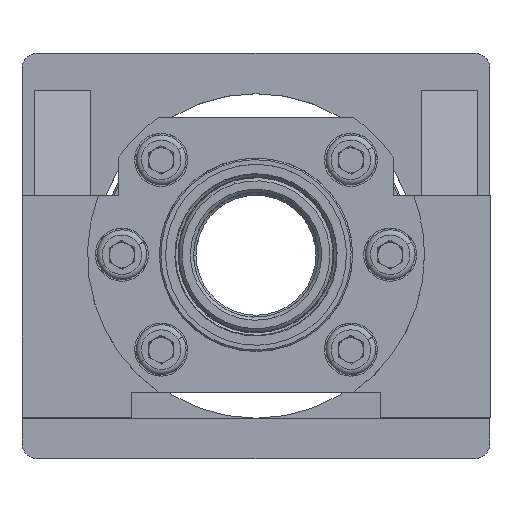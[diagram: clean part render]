
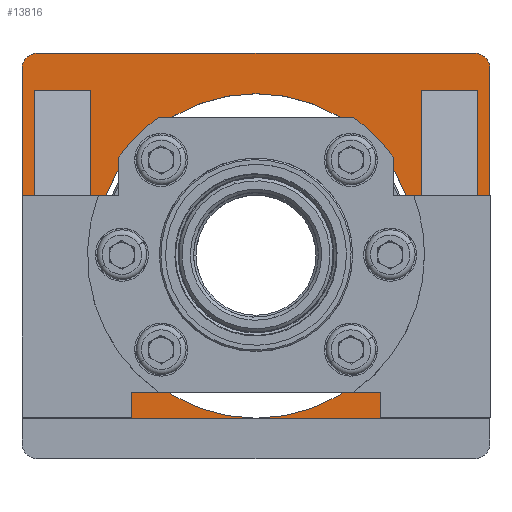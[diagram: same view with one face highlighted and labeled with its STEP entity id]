
A CAD part, top view. The second image highlights one B-rep face of the part: STEP entity #13816.
In plain terms, the highlighted planar face has unit normal (0, 0, 1).
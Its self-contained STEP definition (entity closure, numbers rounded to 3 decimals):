
#267 = CARTESIAN_POINT ( 'NONE',  ( -75., -52.01, 22. ) ) ;
#478 = CARTESIAN_POINT ( 'NONE',  ( -75., 53., 22. ) ) ;
#726 = DIRECTION ( 'NONE',  ( -1., 0., 0. ) ) ;
#994 = CARTESIAN_POINT ( 'NONE',  ( 52., 0., 22. ) ) ;
#1078 = DIRECTION ( 'NONE',  ( 1., 0., 0. ) ) ;
#1080 = CARTESIAN_POINT ( 'NONE',  ( -75., 65., 22. ) ) ;
#1215 = CARTESIAN_POINT ( 'NONE',  ( 0., 0., 22. ) ) ;
#1310 = ORIENTED_EDGE ( 'NONE', *, *, #20342, .F. ) ;
#1708 = ORIENTED_EDGE ( 'NONE', *, *, #17808, .T. ) ;
#1732 = ORIENTED_EDGE ( 'NONE', *, *, #24575, .F. ) ;
#1868 = DIRECTION ( 'NONE',  ( 0., 0., 1. ) ) ;
#1909 = VERTEX_POINT ( 'NONE', #13468 ) ;
#2022 = LINE ( 'NONE', #4789, #17711 ) ;
#2076 = DIRECTION ( 'NONE',  ( -1., 0., 0. ) ) ;
#2147 = AXIS2_PLACEMENT_3D ( 'NONE', #14731, #1868, #16844 ) ;
#2219 = VERTEX_POINT ( 'NONE', #18189 ) ;
#3132 = CARTESIAN_POINT ( 'NONE',  ( -75., -65., 22. ) ) ;
#3150 = EDGE_CURVE ( 'NONE', #8792, #8718, #21101, .T. ) ;
#3374 = DIRECTION ( 'NONE',  ( 1., 0., 0. ) ) ;
#3519 = VERTEX_POINT ( 'NONE', #11243 ) ;
#4026 = VECTOR ( 'NONE', #13259, 1000. ) ;
#4235 = ORIENTED_EDGE ( 'NONE', *, *, #3150, .F. ) ;
#4271 = VECTOR ( 'NONE', #726, 1000. ) ;
#4404 = EDGE_CURVE ( 'NONE', #9642, #2219, #19065, .T. ) ;
#4583 = CARTESIAN_POINT ( 'NONE',  ( -71., 53., 22. ) ) ;
#4630 = ORIENTED_EDGE ( 'NONE', *, *, #20598, .T. ) ;
#4789 = CARTESIAN_POINT ( 'NONE',  ( -53., 17., 22. ) ) ;
#4980 = EDGE_LOOP ( 'NONE', ( #19703, #4630, #14806, #16082, #1708, #14477 ) ) ;
#5404 = LINE ( 'NONE', #27640, #21806 ) ;
#5514 = DIRECTION ( 'NONE',  ( 1., 0., 0. ) ) ;
#5794 = DIRECTION ( 'NONE',  ( 1., 0., 0. ) ) ;
#6040 = VERTEX_POINT ( 'NONE', #17682 ) ;
#6202 = DIRECTION ( 'NONE',  ( 0., 0., 1. ) ) ;
#6724 = EDGE_CURVE ( 'NONE', #8792, #26660, #19643, .T. ) ;
#6739 = AXIS2_PLACEMENT_3D ( 'NONE', #19053, #6202, #21180 ) ;
#7566 = LINE ( 'NONE', #15200, #24601 ) ;
#7624 = EDGE_CURVE ( 'NONE', #10571, #15006, #18649, .T. ) ;
#7656 = VECTOR ( 'NONE', #27546, 1000. ) ;
#8170 = VECTOR ( 'NONE', #27357, 1000. ) ;
#8258 = EDGE_CURVE ( 'NONE', #6040, #8718, #7566, .T. ) ;
#8577 = VERTEX_POINT ( 'NONE', #21198 ) ;
#8673 = CARTESIAN_POINT ( 'NONE',  ( 71., 53., 22. ) ) ;
#8718 = VERTEX_POINT ( 'NONE', #12834 ) ;
#8792 = VERTEX_POINT ( 'NONE', #8673 ) ;
#9125 = DIRECTION ( 'NONE',  ( 0., 1., 0. ) ) ;
#9629 = DIRECTION ( 'NONE',  ( 0., 0., 1. ) ) ;
#9642 = VERTEX_POINT ( 'NONE', #15335 ) ;
#9709 = DIRECTION ( 'NONE',  ( 0., 1., 0. ) ) ;
#9841 = FACE_BOUND ( 'NONE', #18257, .T. ) ;
#10014 = EDGE_CURVE ( 'NONE', #15006, #10773, #14285, .T. ) ;
#10106 = EDGE_CURVE ( 'NONE', #1909, #15597, #13584, .T. ) ;
#10139 = CARTESIAN_POINT ( 'NONE',  ( -76.047, -52.01, 22. ) ) ;
#10562 = DIRECTION ( 'NONE',  ( 0., -1., 0. ) ) ;
#10571 = VERTEX_POINT ( 'NONE', #18931 ) ;
#10720 = ORIENTED_EDGE ( 'NONE', *, *, #11089, .F. ) ;
#10773 = VERTEX_POINT ( 'NONE', #267 ) ;
#11089 = EDGE_CURVE ( 'NONE', #8577, #18405, #13935, .T. ) ;
#11243 = CARTESIAN_POINT ( 'NONE',  ( -53., 53., 22. ) ) ;
#11245 = CARTESIAN_POINT ( 'NONE',  ( -75., 53., 22. ) ) ;
#11785 = PLANE ( 'NONE',  #19003 ) ;
#11933 = CARTESIAN_POINT ( 'NONE',  ( 53., -52., 22. ) ) ;
#12491 = EDGE_LOOP ( 'NONE', ( #10720, #1310 ) ) ;
#12755 = CARTESIAN_POINT ( 'NONE',  ( 70., 65., 22. ) ) ;
#12834 = CARTESIAN_POINT ( 'NONE',  ( 53., 53., 22. ) ) ;
#12993 = ORIENTED_EDGE ( 'NONE', *, *, #8258, .T. ) ;
#13259 = DIRECTION ( 'NONE',  ( -1., 0., 0. ) ) ;
#13468 = CARTESIAN_POINT ( 'NONE',  ( 75., -52.01, 22. ) ) ;
#13584 = LINE ( 'NONE', #26755, #24215 ) ;
#13816 = ADVANCED_FACE ( 'NONE', ( #20527, #26840, #9841, #26151 ), #11785, .T. ) ;
#13933 = DIRECTION ( 'NONE',  ( 0., 0., 1. ) ) ;
#13935 = CIRCLE ( 'NONE', #6739, 52. ) ;
#14006 = VECTOR ( 'NONE', #10562, 1000. ) ;
#14285 = LINE ( 'NONE', #1080, #19904 ) ;
#14477 = ORIENTED_EDGE ( 'NONE', *, *, #7624, .T. ) ;
#14573 = LINE ( 'NONE', #16659, #8170 ) ;
#14662 = EDGE_CURVE ( 'NONE', #15597, #14761, #19228, .T. ) ;
#14716 = VECTOR ( 'NONE', #5514, 1000. ) ;
#14731 = CARTESIAN_POINT ( 'NONE',  ( 70., 60., 22. ) ) ;
#14761 = VERTEX_POINT ( 'NONE', #12755 ) ;
#14806 = ORIENTED_EDGE ( 'NONE', *, *, #10106, .T. ) ;
#15006 = VERTEX_POINT ( 'NONE', #21554 ) ;
#15092 = LINE ( 'NONE', #10139, #26346 ) ;
#15200 = CARTESIAN_POINT ( 'NONE',  ( 53., 17., 22. ) ) ;
#15335 = CARTESIAN_POINT ( 'NONE',  ( -71., -52., 22. ) ) ;
#15597 = VERTEX_POINT ( 'NONE', #18472 ) ;
#16082 = ORIENTED_EDGE ( 'NONE', *, *, #14662, .T. ) ;
#16200 = DIRECTION ( 'NONE',  ( 0., 0., 1. ) ) ;
#16248 = AXIS2_PLACEMENT_3D ( 'NONE', #22429, #9629, #24535 ) ;
#16274 = EDGE_CURVE ( 'NONE', #26981, #9642, #14573, .T. ) ;
#16659 = CARTESIAN_POINT ( 'NONE',  ( -71., 17., 22. ) ) ;
#16844 = DIRECTION ( 'NONE',  ( 1., 0., 0. ) ) ;
#16904 = CARTESIAN_POINT ( 'NONE',  ( 71., 17., 22. ) ) ;
#17230 = DIRECTION ( 'NONE',  ( 0., 1., 0. ) ) ;
#17682 = CARTESIAN_POINT ( 'NONE',  ( 53., -52., 22. ) ) ;
#17711 = VECTOR ( 'NONE', #9125, 1000. ) ;
#17808 = EDGE_CURVE ( 'NONE', #14761, #10571, #5404, .T. ) ;
#17899 = ORIENTED_EDGE ( 'NONE', *, *, #20262, .F. ) ;
#18189 = CARTESIAN_POINT ( 'NONE',  ( -53., -52., 22. ) ) ;
#18257 = EDGE_LOOP ( 'NONE', ( #25429, #21761, #1732, #17899 ) ) ;
#18405 = VERTEX_POINT ( 'NONE', #994 ) ;
#18472 = CARTESIAN_POINT ( 'NONE',  ( 75., 60., 22. ) ) ;
#18649 = CIRCLE ( 'NONE', #16248, 5. ) ;
#18849 = AXIS2_PLACEMENT_3D ( 'NONE', #1215, #16200, #3374 ) ;
#18931 = CARTESIAN_POINT ( 'NONE',  ( -70., 65., 22. ) ) ;
#19003 = AXIS2_PLACEMENT_3D ( 'NONE', #3132, #13933, #1078 ) ;
#19053 = CARTESIAN_POINT ( 'NONE',  ( 0., 0., 22. ) ) ;
#19065 = LINE ( 'NONE', #25399, #7656 ) ;
#19228 = CIRCLE ( 'NONE', #2147, 5. ) ;
#19643 = LINE ( 'NONE', #16904, #14006 ) ;
#19703 = ORIENTED_EDGE ( 'NONE', *, *, #10014, .T. ) ;
#19904 = VECTOR ( 'NONE', #22404, 1000. ) ;
#20262 = EDGE_CURVE ( 'NONE', #2219, #3519, #2022, .T. ) ;
#20342 = EDGE_CURVE ( 'NONE', #18405, #8577, #23407, .T. ) ;
#20527 = FACE_BOUND ( 'NONE', #12491, .T. ) ;
#20598 = EDGE_CURVE ( 'NONE', #10773, #1909, #15092, .T. ) ;
#21019 = LINE ( 'NONE', #11933, #14716 ) ;
#21101 = LINE ( 'NONE', #478, #4026 ) ;
#21180 = DIRECTION ( 'NONE',  ( 1., 0., 0. ) ) ;
#21198 = CARTESIAN_POINT ( 'NONE',  ( -52., 0., 22. ) ) ;
#21380 = EDGE_LOOP ( 'NONE', ( #22274, #12993, #4235, #22645 ) ) ;
#21554 = CARTESIAN_POINT ( 'NONE',  ( -75., 60., 22. ) ) ;
#21761 = ORIENTED_EDGE ( 'NONE', *, *, #16274, .F. ) ;
#21806 = VECTOR ( 'NONE', #2076, 1000. ) ;
#22274 = ORIENTED_EDGE ( 'NONE', *, *, #25203, .F. ) ;
#22404 = DIRECTION ( 'NONE',  ( 0., -1., 0. ) ) ;
#22429 = CARTESIAN_POINT ( 'NONE',  ( -70., 60., 22. ) ) ;
#22645 = ORIENTED_EDGE ( 'NONE', *, *, #6724, .T. ) ;
#23407 = CIRCLE ( 'NONE', #18849, 52. ) ;
#24215 = VECTOR ( 'NONE', #9709, 1000. ) ;
#24535 = DIRECTION ( 'NONE',  ( 1., 0., 0. ) ) ;
#24575 = EDGE_CURVE ( 'NONE', #3519, #26981, #26292, .T. ) ;
#24601 = VECTOR ( 'NONE', #17230, 1000. ) ;
#25203 = EDGE_CURVE ( 'NONE', #6040, #26660, #21019, .T. ) ;
#25399 = CARTESIAN_POINT ( 'NONE',  ( -71., -52., 22. ) ) ;
#25429 = ORIENTED_EDGE ( 'NONE', *, *, #4404, .F. ) ;
#26151 = FACE_BOUND ( 'NONE', #21380, .T. ) ;
#26292 = LINE ( 'NONE', #11245, #4271 ) ;
#26346 = VECTOR ( 'NONE', #5794, 1000. ) ;
#26660 = VERTEX_POINT ( 'NONE', #26922 ) ;
#26755 = CARTESIAN_POINT ( 'NONE',  ( 75., 65., 22. ) ) ;
#26840 = FACE_OUTER_BOUND ( 'NONE', #4980, .T. ) ;
#26922 = CARTESIAN_POINT ( 'NONE',  ( 71., -52., 22. ) ) ;
#26981 = VERTEX_POINT ( 'NONE', #4583 ) ;
#27357 = DIRECTION ( 'NONE',  ( 0., -1., 0. ) ) ;
#27546 = DIRECTION ( 'NONE',  ( 1., 0., 0. ) ) ;
#27640 = CARTESIAN_POINT ( 'NONE',  ( -75., 65., 22. ) ) ;
